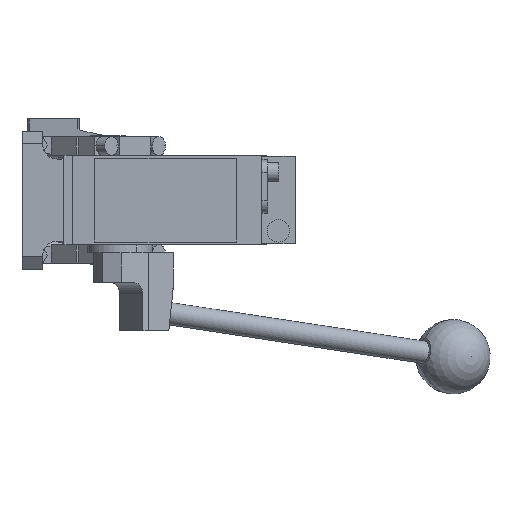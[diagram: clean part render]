
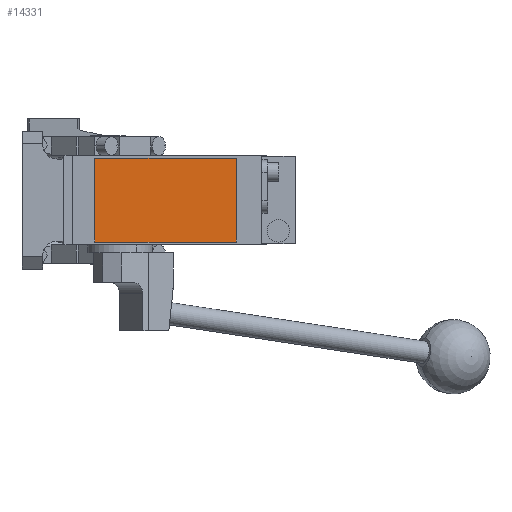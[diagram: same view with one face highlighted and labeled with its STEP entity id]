
A CAD part, front view. The second image highlights one B-rep face of the part: STEP entity #14331.
In plain terms, the highlighted planar face has unit normal (0, -1, 0).
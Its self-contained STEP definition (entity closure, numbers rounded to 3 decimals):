
#570 = VERTEX_POINT ( 'NONE', #8598 ) ;
#1888 = LINE ( 'NONE', #5646, #4597 ) ;
#2370 = EDGE_CURVE ( 'NONE', #570, #12257, #10555, .T. ) ;
#2411 = VECTOR ( 'NONE', #9958, 1000. ) ;
#2497 = EDGE_LOOP ( 'NONE', ( #10531, #3715, #15279, #14768 ) ) ;
#2539 = LINE ( 'NONE', #3920, #2411 ) ;
#3156 = CARTESIAN_POINT ( 'NONE',  ( 69., -280.5, 22.5 ) ) ;
#3561 = DIRECTION ( 'NONE',  ( 0., -1., 0. ) ) ;
#3715 = ORIENTED_EDGE ( 'NONE', *, *, #10108, .T. ) ;
#3920 = CARTESIAN_POINT ( 'NONE',  ( -7., -280.5, -22.5 ) ) ;
#4597 = VECTOR ( 'NONE', #7017, 1000. ) ;
#4694 = VECTOR ( 'NONE', #8127, 1000. ) ;
#4705 = PLANE ( 'NONE',  #5577 ) ;
#4970 = CARTESIAN_POINT ( 'NONE',  ( -7., -280.5, 22.5 ) ) ;
#5480 = EDGE_CURVE ( 'NONE', #11528, #6766, #11116, .T. ) ;
#5577 = AXIS2_PLACEMENT_3D ( 'NONE', #13124, #3561, #13373 ) ;
#5646 = CARTESIAN_POINT ( 'NONE',  ( -7., -280.5, 22.5 ) ) ;
#6766 = VERTEX_POINT ( 'NONE', #13119 ) ;
#7017 = DIRECTION ( 'NONE',  ( -1., 0., 0. ) ) ;
#7650 = DIRECTION ( 'NONE',  ( 0., 0., -1. ) ) ;
#8127 = DIRECTION ( 'NONE',  ( 0., 0., 1. ) ) ;
#8598 = CARTESIAN_POINT ( 'NONE',  ( 69., -280.5, -22.5 ) ) ;
#9958 = DIRECTION ( 'NONE',  ( 1., 0., 0. ) ) ;
#10108 = EDGE_CURVE ( 'NONE', #6766, #570, #2539, .T. ) ;
#10531 = ORIENTED_EDGE ( 'NONE', *, *, #5480, .T. ) ;
#10555 = LINE ( 'NONE', #3156, #4694 ) ;
#10985 = CARTESIAN_POINT ( 'NONE',  ( 69., -280.5, 22.5 ) ) ;
#11116 = LINE ( 'NONE', #4970, #12794 ) ;
#11266 = CARTESIAN_POINT ( 'NONE',  ( -7., -280.5, 22.5 ) ) ;
#11528 = VERTEX_POINT ( 'NONE', #11266 ) ;
#12257 = VERTEX_POINT ( 'NONE', #10985 ) ;
#12794 = VECTOR ( 'NONE', #7650, 1000. ) ;
#13119 = CARTESIAN_POINT ( 'NONE',  ( -7., -280.5, -22.5 ) ) ;
#13124 = CARTESIAN_POINT ( 'NONE',  ( 0., -280.5, 0. ) ) ;
#13373 = DIRECTION ( 'NONE',  ( 0., 0., -1. ) ) ;
#14331 = ADVANCED_FACE ( 'NONE', ( #15802 ), #4705, .T. ) ;
#14768 = ORIENTED_EDGE ( 'NONE', *, *, #15230, .T. ) ;
#15230 = EDGE_CURVE ( 'NONE', #12257, #11528, #1888, .T. ) ;
#15279 = ORIENTED_EDGE ( 'NONE', *, *, #2370, .T. ) ;
#15802 = FACE_OUTER_BOUND ( 'NONE', #2497, .T. ) ;
